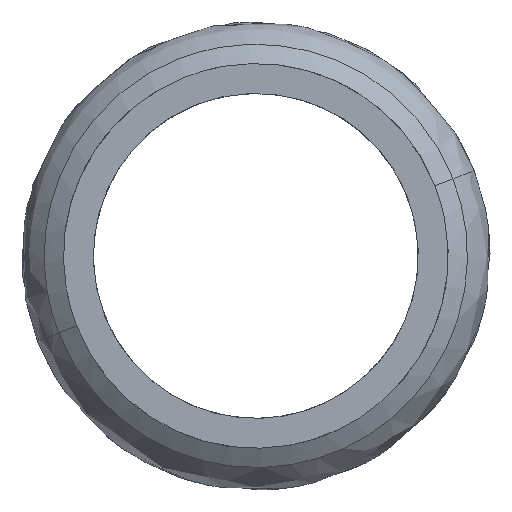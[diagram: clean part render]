
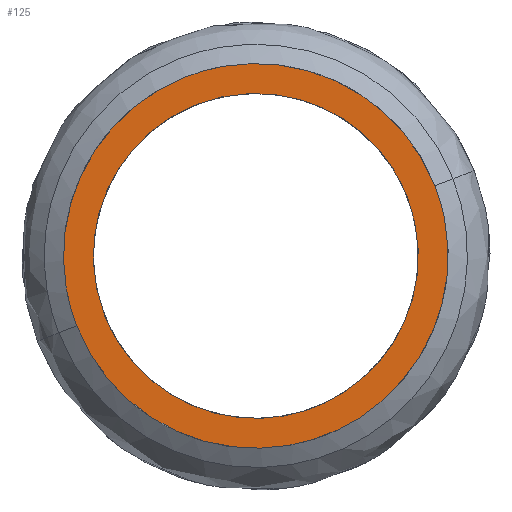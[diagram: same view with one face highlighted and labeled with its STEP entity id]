
A CAD part, left-side view. The second image highlights one B-rep face of the part: STEP entity #125.
In plain terms, the highlighted free-form (B-spline) face has degree [1, 1] with [2, 2] control points.
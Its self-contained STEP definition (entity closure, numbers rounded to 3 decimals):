
#125=ADVANCED_FACE('',(#249,#250),#251,.T.);
#249=FACE_OUTER_BOUND('',#728,.T.);
#250=FACE_BOUND('',#729,.T.);
#251=B_SPLINE_SURFACE_WITH_KNOTS('',1,1,((#730,#731),(#732,#733)),.UNSPECIFIED.,.F.,.F.,.F.,(2,2),(2,2),(0.0,22.5),(0.0,22.5),.UNSPECIFIED.);
#728=EDGE_LOOP('',(#1012,#1013,#1014));
#729=EDGE_LOOP('',(#1015,#1016,#1017));
#730=CARTESIAN_POINT('',(-24.0,-11.25,-11.25));
#731=CARTESIAN_POINT('',(-24.0,11.25,-11.25));
#732=CARTESIAN_POINT('',(-24.0,-11.25,11.25));
#733=CARTESIAN_POINT('',(-24.0,11.25,11.25));
#1012=ORIENTED_EDGE('',*,*,#1124,.T.);
#1013=ORIENTED_EDGE('',*,*,#1044,.T.);
#1014=ORIENTED_EDGE('',*,*,#1125,.T.);
#1015=ORIENTED_EDGE('',*,*,#1137,.T.);
#1016=ORIENTED_EDGE('',*,*,#1033,.T.);
#1017=ORIENTED_EDGE('',*,*,#1138,.T.);
#1033=EDGE_CURVE('',#1162,#1166,#1168,.T.);
#1044=EDGE_CURVE('',#1184,#1182,#1185,.T.);
#1124=EDGE_CURVE('',#1302,#1184,#1303,.T.);
#1125=EDGE_CURVE('',#1182,#1302,#1304,.T.);
#1137=EDGE_CURVE('',#1319,#1162,#1320,.T.);
#1138=EDGE_CURVE('',#1166,#1319,#1321,.T.);
#1162=VERTEX_POINT('',#1449);
#1166=VERTEX_POINT('',#1465);
#1168=(B_SPLINE_CURVE(2,(#1469,#1470,#1471,#1472,#1473),.UNSPECIFIED.,.F.,.F.)B_SPLINE_CURVE_WITH_KNOTS((3,2,3),(-1.571,0.,1.571),.UNSPECIFIED.)RATIONAL_B_SPLINE_CURVE((1.0,0.707,1.0,0.707,1.0))BOUNDED_CURVE()REPRESENTATION_ITEM('')GEOMETRIC_REPRESENTATION_ITEM()CURVE());
#1182=VERTEX_POINT('',#1497);
#1184=VERTEX_POINT('',#1500);
#1185=(B_SPLINE_CURVE(2,(#1502,#1503,#1504,#1505,#1506),.UNSPECIFIED.,.F.,.F.)B_SPLINE_CURVE_WITH_KNOTS((3,2,3),(-1.571,0.,1.571),.UNSPECIFIED.)RATIONAL_B_SPLINE_CURVE((1.0,0.707,1.0,0.707,1.0))BOUNDED_CURVE()REPRESENTATION_ITEM('')GEOMETRIC_REPRESENTATION_ITEM()CURVE());
#1302=VERTEX_POINT('',#1951);
#1303=(B_SPLINE_CURVE(2,(#1953,#1954,#1955),.UNSPECIFIED.,.F.,.F.)B_SPLINE_CURVE_WITH_KNOTS((3,3),(-3.142,-1.571),.UNSPECIFIED.)RATIONAL_B_SPLINE_CURVE((1.0,0.707,1.0))BOUNDED_CURVE()REPRESENTATION_ITEM('')GEOMETRIC_REPRESENTATION_ITEM()CURVE());
#1304=(B_SPLINE_CURVE(2,(#1963,#1964,#1965),.UNSPECIFIED.,.F.,.F.)B_SPLINE_CURVE_WITH_KNOTS((3,3),(1.571,3.142),.UNSPECIFIED.)RATIONAL_B_SPLINE_CURVE((1.0,0.707,1.0))BOUNDED_CURVE()REPRESENTATION_ITEM('')GEOMETRIC_REPRESENTATION_ITEM()CURVE());
#1319=VERTEX_POINT('',#2048);
#1320=(B_SPLINE_CURVE(2,(#2050,#2051,#2052),.UNSPECIFIED.,.F.,.F.)B_SPLINE_CURVE_WITH_KNOTS((3,3),(-3.142,-1.571),.UNSPECIFIED.)RATIONAL_B_SPLINE_CURVE((1.0,0.707,1.0))BOUNDED_CURVE()REPRESENTATION_ITEM('')GEOMETRIC_REPRESENTATION_ITEM()CURVE());
#1321=(B_SPLINE_CURVE(2,(#2060,#2061,#2062),.UNSPECIFIED.,.F.,.F.)B_SPLINE_CURVE_WITH_KNOTS((3,3),(1.571,3.142),.UNSPECIFIED.)RATIONAL_B_SPLINE_CURVE((1.0,0.707,1.0))BOUNDED_CURVE()REPRESENTATION_ITEM('')GEOMETRIC_REPRESENTATION_ITEM()CURVE());
#1449=CARTESIAN_POINT('',(-24.,-8.854,3.457));
#1465=CARTESIAN_POINT('',(-24.,8.854,-3.457));
#1469=CARTESIAN_POINT('',(-24.,-8.854,3.457));
#1470=CARTESIAN_POINT('',(-24.0,-12.311,-5.397));
#1471=CARTESIAN_POINT('',(-24.0,-3.457,-8.854));
#1472=CARTESIAN_POINT('',(-24.0,5.397,-12.311));
#1473=CARTESIAN_POINT('',(-24.,8.854,-3.457));
#1497=CARTESIAN_POINT('',(-24.0,-10.479,4.092));
#1500=CARTESIAN_POINT('',(-24.0,10.479,-4.092));
#1502=CARTESIAN_POINT('',(-24.0,10.479,-4.092));
#1503=CARTESIAN_POINT('',(-24.0,6.387,-14.571));
#1504=CARTESIAN_POINT('',(-24.0,-4.092,-10.479));
#1505=CARTESIAN_POINT('',(-24.0,-14.571,-6.387));
#1506=CARTESIAN_POINT('',(-24.0,-10.479,4.092));
#1951=CARTESIAN_POINT('',(-24.0,4.092,10.479));
#1953=CARTESIAN_POINT('',(-24.0,4.092,10.479));
#1954=CARTESIAN_POINT('',(-24.,14.571,6.387));
#1955=CARTESIAN_POINT('',(-24.0,10.479,-4.092));
#1963=CARTESIAN_POINT('',(-24.0,-10.479,4.092));
#1964=CARTESIAN_POINT('',(-24.0,-6.387,14.571));
#1965=CARTESIAN_POINT('',(-24.0,4.092,10.479));
#2048=CARTESIAN_POINT('',(-24.,3.457,8.854));
#2050=CARTESIAN_POINT('',(-24.,3.457,8.854));
#2051=CARTESIAN_POINT('',(-24.,-5.397,12.311));
#2052=CARTESIAN_POINT('',(-24.,-8.854,3.457));
#2060=CARTESIAN_POINT('',(-24.,8.854,-3.457));
#2061=CARTESIAN_POINT('',(-24.,12.311,5.397));
#2062=CARTESIAN_POINT('',(-24.,3.457,8.854));
